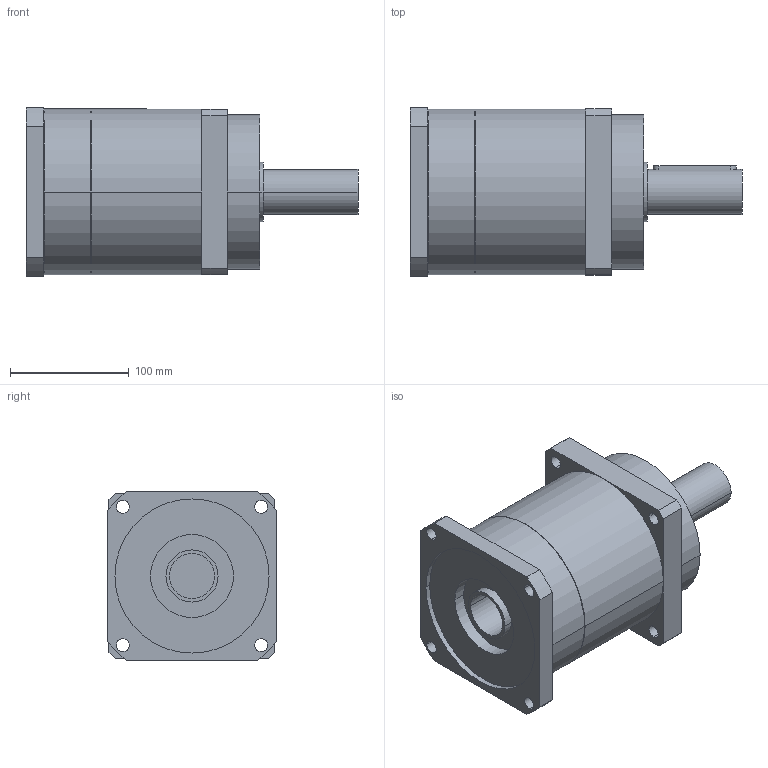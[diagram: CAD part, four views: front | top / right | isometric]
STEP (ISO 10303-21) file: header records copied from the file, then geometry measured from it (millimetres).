
FILE_DESCRIPTION(('CoCreate Modeling STEP Export'),'2;1');
FILE_NAME('GPR150_ig-3-4-5-7_38_B5_38_P05.stp','2014-08-19T16:43:29',(''),(''),'CoCreate Modeling STEP processor for AP214 (Solid Model)','CoCreate Modeling 16.00C 25-Feb-2009 (C) Parametric Technology GmbH','');
FILE_SCHEMA(('AUTOMOTIVE_DESIGN { 1 0 10303 214 1 1 1 1 }'));
Length unit declared in the file: millimetre
Products named in the file (2): GPR150_ig-3-4-5-7_38_B5_38_P05
Assembly tree (1 placements, depth 2):
  GPR150_ig-3-4-5-7_38_B5_38_P05
    GPR150_ig-3-4-5-7_38_B5_38_P05
Bounding box: 280 x 142 x 142 mm (x, y, z)
Volume: 3039481.1 mm3; surface area: 166588.6 mm2
Topology: 1 solids, 1 shells, 78 faces, 214 edges, 146 vertices
Faces by surface type: cylinder 46, plane 26, cone 6
Entity records: 2260 total; most frequent: ORIENTED_EDGE 424, CARTESIAN_POINT 421, DIRECTION 320, EDGE_CURVE 212, VERTEX_POINT 146, AXIS2_PLACEMENT_3D 117, EDGE_LOOP 104, VECTOR 86
